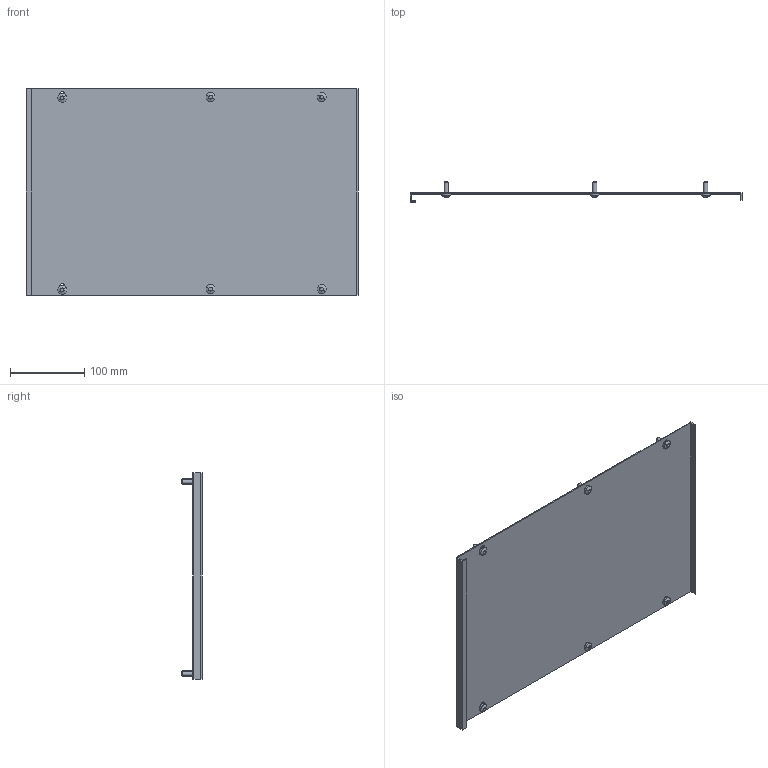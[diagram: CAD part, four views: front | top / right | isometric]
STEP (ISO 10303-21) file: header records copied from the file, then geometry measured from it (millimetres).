
FILE_DESCRIPTION (( 'STEP AP214' ), '1' );
FILE_NAME ('FO-00-PVS-045-040 Ïëàñòðîí ãëóõîé âíóòðåííèé 450õ400.STEP', '2025-09-30T07:43:19', ( '' ), ( '' ), 'SwSTEP 2.0', 'SolidWorks 2023', '' );
FILE_SCHEMA (( 'AUTOMOTIVE_DESIGN' ));
Length unit declared in the file: millimetre
Products named in the file (3): FO-00-PVS-045-040 Пластрон глухой внутренний 450х400; Винт M6x16 045 IEK
Assembly tree (3 placements, depth 2):
  FO-00-PVS-045-040 Пластрон глухой внутренний 450х400
    FO-00-PVS-045-040 Пластрон глухой внутренний 450х400
    Винт M6x16 045 IEK  x2
Bounding box: 448 x 27 x 279 mm (x, y, z)
Volume: 202593.8 mm3; surface area: 270280.7 mm2
Topology: 7 solids, 7 shells, 214 faces, 558 edges, 364 vertices
Faces by surface type: cylinder 132, plane 52, cone 18, bspline 12
Entity records: 4464 total; most frequent: CARTESIAN_POINT 1022, ORIENTED_EDGE 708, DIRECTION 692, EDGE_CURVE 354, AXIS2_PLACEMENT_3D 256, VERTEX_POINT 232, LINE 180, VECTOR 180
